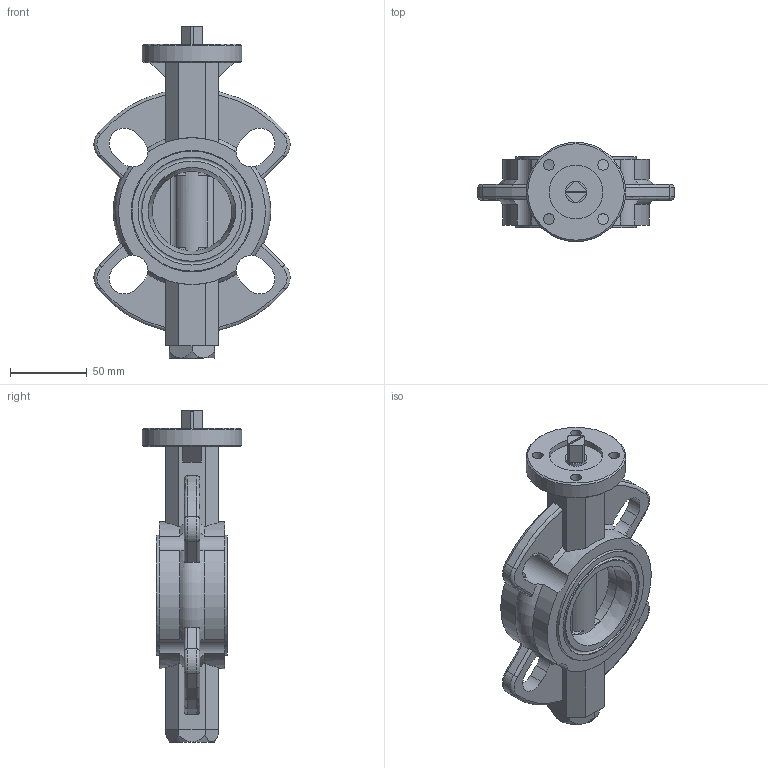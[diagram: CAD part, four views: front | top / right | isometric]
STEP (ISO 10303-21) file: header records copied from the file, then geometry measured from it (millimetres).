
FILE_DESCRIPTION( ( 'STEP AP214' ), '1' );
FILE_NAME( ' ', ' ', ( ' ' ), ( ' ' ), 'PSStep 13.0', 'VISI 18.0', ' ' );
FILE_SCHEMA( ( 'AUTOMOTIVE_DESIGN { 1 0 10303 214 1 1 1 1 }' ) );
Length unit declared in the file: millimetre
Products named in the file (1): 1
Bounding box: 128.26 x 65 x 217 mm (x, y, z)
Volume: 434662.8 mm3; surface area: 80018.7 mm2
Topology: 1 solids, 2 shells, 204 faces, 581 edges, 379 vertices
Faces by surface type: plane 96, cylinder 65, torus 29, cone 10, bspline 4
Full cylindrical faces by diameter (mm): 7 x4, 14 x1, 35 x1, 65 x1, 65.5 x2, 70.5 x2, 78.5 x2, 79.4 x3
Entity records: 8913 total; most frequent: CARTESIAN_POINT 2044, DIRECTION 1094, ORIENTED_EDGE 1092, EDGE_CURVE 546, AXIS2_PLACEMENT_3D 431, VERTEX_POINT 367, EDGE_LOOP 251, LINE 232
